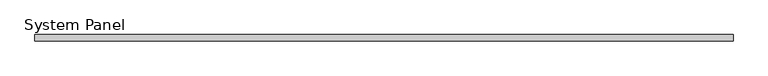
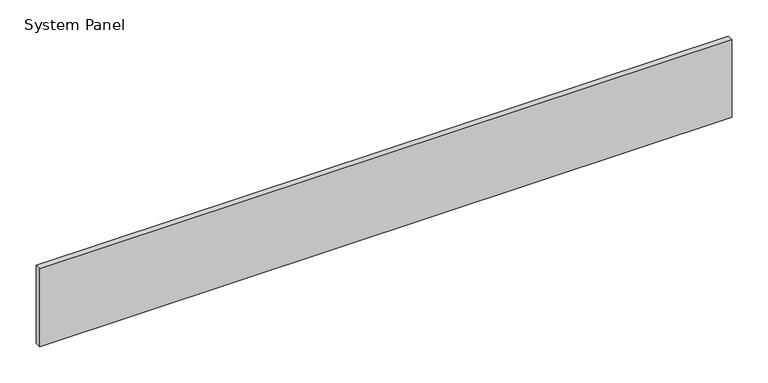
"""IFC4 building model written with IfcOpenShell, lengths in millimetres: plate geometry, System Panel : VACÍO."""

import ifcopenshell
import ifcopenshell.guid

model = None  # the IFC model being written
_history = None  # IfcOwnerHistory: only IFC2X3 demands one
_inside = {}  # id of a spatial element -> (the spatial element, [elements in it])
_under = {}  # id of a project, library or spatial element -> (it, [spatial elements below it])
_declared = {}  # id of a project -> (the project, [libraries it declares])
_typed = {}  # id of a type object -> (the type object, [elements of that type])
_made_of = {}  # id of a material, layer set ... -> (it, [elements and type objects made of it])


def new_model(schema):
    """Start an empty IFC model of exactly this schema.

    Asked for "IFC4X3", IfcOpenShell would pick the latest addendum, in which some entities
    have other attributes; the version numbers below select the first issue.
    IFC2X3 requires an IfcOwnerHistory on every rooted entity: one is made here for all.
    """
    global model, _history
    if schema == "IFC4X3":
        model = ifcopenshell.file(schema_version=(4, 3, 0, 0))
    else:
        model = ifcopenshell.file(schema=schema)
    _inside.clear()
    _under.clear()
    _declared.clear()
    _typed.clear()
    _made_of.clear()
    _history = None
    if model.schema == "IFC2X3":
        org = make("IfcOrganization", Name="unknown")
        user = make(
            "IfcPersonAndOrganization",
            ThePerson=make("IfcPerson", FamilyName="unknown"),
            TheOrganization=org,
        )
        app = make(
            "IfcApplication",
            ApplicationDeveloper=org,
            Version="unknown",
            ApplicationFullName="unknown",
            ApplicationIdentifier="unknown",
        )
        _history = make(
            "IfcOwnerHistory",
            OwningUser=user,
            OwningApplication=app,
            ChangeAction="ADDED",
            CreationDate=0,
        )
    return model


def make(cls, **values):
    """One entity of the class cls with the attributes given. An attribute that is None is left unset."""
    return model.create_entity(
        cls, **{name: value for name, value in values.items() if value is not None}
    )


def rooted(cls, **values):
    """An entity with a GlobalId (a new one), such as an element, a storey or a relation."""
    return make(cls, GlobalId=ifcopenshell.guid.new(), OwnerHistory=_history, **values)


def si_unit(unit_type, name, prefix=None):
    """IfcSIUnit, for example si_unit("LENGTHUNIT", "METRE", prefix="MILLI")."""
    return make("IfcSIUnit", UnitType=unit_type, Prefix=prefix, Name=name)


def assignment(units):
    """IfcUnitAssignment: the units of a project."""
    return None if units is None else make("IfcUnitAssignment", Units=units)


def point(xyz):
    """IfcCartesianPoint."""
    return None if xyz is None else make("IfcCartesianPoint", Coordinates=xyz)


def direction(xyz):
    """IfcDirection."""
    return None if xyz is None else make("IfcDirection", DirectionRatios=xyz)


def frame(location, z_axis=None, x_axis=None):
    """IfcAxis2Placement3D, a coordinate frame: its origin and axes. An axis left out is left unset."""
    return make(
        "IfcAxis2Placement3D",
        Location=point(location),
        Axis=direction(z_axis),
        RefDirection=direction(x_axis),
    )


def origin():
    """The frame at (0, 0, 0) with its axes left unset."""
    return frame((0.0, 0.0, 0.0))


def origin_with_axes():
    """The frame at (0, 0, 0) with the z axis (0, 0, 1) and the x axis (1, 0, 0) written out."""
    return frame((0.0, 0.0, 0.0), z_axis=(0.0, 0.0, 1.0), x_axis=(1.0, 0.0, 0.0))


def place(relative_to, where):
    """IfcLocalPlacement: puts the frame where relative to a parent placement (None: the world)."""
    return make(
        "IfcLocalPlacement", PlacementRelTo=relative_to, RelativePlacement=where
    )


def context(
    kind, dimensions, precision=None, world=None, true_north=None, identifier=None
):
    """IfcGeometricRepresentationContext, for example the 3D "Model" context."""
    return make(
        "IfcGeometricRepresentationContext",
        ContextIdentifier=identifier,
        ContextType=kind,
        CoordinateSpaceDimension=dimensions,
        Precision=precision,
        WorldCoordinateSystem=world,
        TrueNorth=true_north,
    )


def project(units=None, contexts=None):
    """IfcProject with its units and contexts."""
    return rooted(
        "IfcProject",
        Name="project",
        RepresentationContexts=contexts,
        UnitsInContext=assignment(units),
    )


def spatial(cls, under=None, at=None, **own):
    """A site, building, storey or space (cls), placed at a placement, below another one or the project."""
    s = rooted(cls, ObjectPlacement=at, **own)
    if under is not None:
        _under.setdefault(under.id(), (under, []))[1].append(s)
    return s


def polyline(points):
    """IfcPolyline through the points."""
    return make("IfcPolyline", Points=[point(p) for p in points])


def outline(outer, holes=None, kind="AREA"):
    """IfcArbitraryClosedProfileDef: a profile drawn as a closed curve; with holes, ...WithVoids."""
    if holes is None:
        return make("IfcArbitraryClosedProfileDef", ProfileType=kind, OuterCurve=outer)
    return make(
        "IfcArbitraryProfileDefWithVoids",
        ProfileType=kind,
        OuterCurve=outer,
        InnerCurves=holes,
    )


def extrude(swept, where, along, depth):
    """IfcExtrudedAreaSolid: the profile swept, set in the frame where, extruded along a direction by depth."""
    return make(
        "IfcExtrudedAreaSolid",
        SweptArea=swept,
        Position=where,
        ExtrudedDirection=direction(along),
        Depth=depth,
    )


def shape(context_of_items, identifier, shape_type, items):
    """IfcShapeRepresentation: the items that make up one representation, for example the "Body"."""
    return make(
        "IfcShapeRepresentation",
        ContextOfItems=context_of_items,
        RepresentationIdentifier=identifier,
        RepresentationType=shape_type,
        Items=items,
    )


def source(mapping_origin, context_of_items, identifier, shape_type, items):
    """IfcRepresentationMap: a shape defined once, which mapped items show again and again."""
    return make(
        "IfcRepresentationMap",
        MappingOrigin=mapping_origin,
        MappedRepresentation=shape(context_of_items, identifier, shape_type, items),
    )


def transform(
    local_origin,
    x_axis=None,
    y_axis=None,
    z_axis=None,
    scale=None,
    scale2=None,
    scale3=None,
    uniform=True,
):
    """IfcCartesianTransformationOperator3D, or its non-uniform kind. x_axis, y_axis, z_axis: its Axis1, 2, 3."""
    if uniform:
        return make(
            "IfcCartesianTransformationOperator3D",
            Axis1=direction(x_axis),
            Axis2=direction(y_axis),
            LocalOrigin=point(local_origin),
            Scale=scale,
            Axis3=direction(z_axis),
        )
    return make(
        "IfcCartesianTransformationOperator3DnonUniform",
        Axis1=direction(x_axis),
        Axis2=direction(y_axis),
        LocalOrigin=point(local_origin),
        Scale=scale,
        Axis3=direction(z_axis),
        Scale2=scale2,
        Scale3=scale3,
    )


def mapped(mapping_source, mapping_target):
    """IfcMappedItem: shows the shape of a source again, moved by a transform."""
    return make(
        "IfcMappedItem", MappingSource=mapping_source, MappingTarget=mapping_target
    )


def made_of(thing, what):
    """Note that an element or type object is made of a material, layer set ...; save() writes the relation."""
    if what is not None:
        _made_of.setdefault(what.id(), (what, []))[1].append(thing)
    return thing


def element(
    cls,
    number,
    at=None,
    inside=None,
    cuts=None,
    type_object=None,
    material=None,
    context=None,
    identifier="Body",
    shape_type=None,
    held_by="IfcProductDefinitionShape",
    body=None,
    shapes=None,
    **own,
):
    """One element of the class cls, such as IfcWall. Its Tag is "e" and its number.

    at: its placement. inside: the storey or other place that contains it. cuts: it is an
    opening in that element (IfcRelVoidsElement). A single representation is given by context,
    identifier, shape_type and body (its items); several are given by shapes. held_by: the class
    of the entity that holds the representations. save() writes the other relations.
    """
    e = rooted(cls, Tag="e%d" % number, ObjectPlacement=at, **own)
    if body is not None:
        shapes = [shape(context, identifier, shape_type, body)]
    if shapes is not None:
        e.Representation = make(held_by, Representations=shapes)
    if inside is not None:
        _inside.setdefault(inside.id(), (inside, []))[1].append(e)
    if cuts is not None:
        rooted(
            "IfcRelVoidsElement", RelatingBuildingElement=cuts, RelatedOpeningElement=e
        )
    if type_object is not None:
        _typed.setdefault(type_object.id(), (type_object, []))[1].append(e)
    return made_of(e, material)


def aggregate(whole, parts):
    """IfcRelAggregates: a whole, such as a stair, and the parts it consists of."""
    return rooted("IfcRelAggregates", RelatingObject=whole, RelatedObjects=parts)


def save(model, path):
    """Write the relations noted so far, then the file.

    IfcRelAggregates (storeys below a building ...), IfcRelContainedInSpatialStructure (elements
    in a storey), IfcRelDefinesByType, IfcRelAssociatesMaterial and IfcRelDeclares: one each for
    every whole, place, type object, material and project.
    """
    for whole, parts in _under.values():
        aggregate(whole, parts)
    for where, things in _inside.values():
        rooted(
            "IfcRelContainedInSpatialStructure",
            RelatedElements=things,
            RelatingStructure=where,
        )
    for kind, things in _typed.values():
        rooted("IfcRelDefinesByType", RelatedObjects=things, RelatingType=kind)
    for what, things in _made_of.values():
        rooted("IfcRelAssociatesMaterial", RelatedObjects=things, RelatingMaterial=what)
    for by, libraries in _declared.values():
        rooted("IfcRelDeclares", RelatingContext=by, RelatedDefinitions=libraries)
    model.write(path)


def system_panel_6bc11d80(model_context):
    return source(origin(), model_context, "Body", "SweptSolid", [
        extrude(outline(polyline([(553.3436275, -5.0), (-553.3436275, -5.0), (-553.3436275, 5.0), (553.3436275, 5.0), (553.3436275, -5.0)])), origin_with_axes(), (0.0, 0.0, 1.0), 131.4545455),
    ])


if __name__ == "__main__":
    model = new_model("IFC4")
    model_context = context("Model", 3, world=origin())
    ifc_project = project(units=[si_unit("LENGTHUNIT", "METRE", prefix="MILLI")], contexts=[model_context])
    site = spatial("IfcSite", under=ifc_project)
    building = spatial("IfcBuilding", under=site)
    placement = place(None, origin())
    system_panel_shape = system_panel_6bc11d80(model_context)
    element("IfcPlate", 1, ObjectType="System Panel : VACÍO", at=placement, inside=building, context=model_context, shape_type="MappedRepresentation", body=[
        mapped(system_panel_shape, transform((0.0, 0.0, 0.0), x_axis=(1.0, 0.0, 0.0), y_axis=(0.0, 1.0, 0.0), z_axis=(0.0, 0.0, 1.0))),
    ])
    save(model, "model.ifc")
